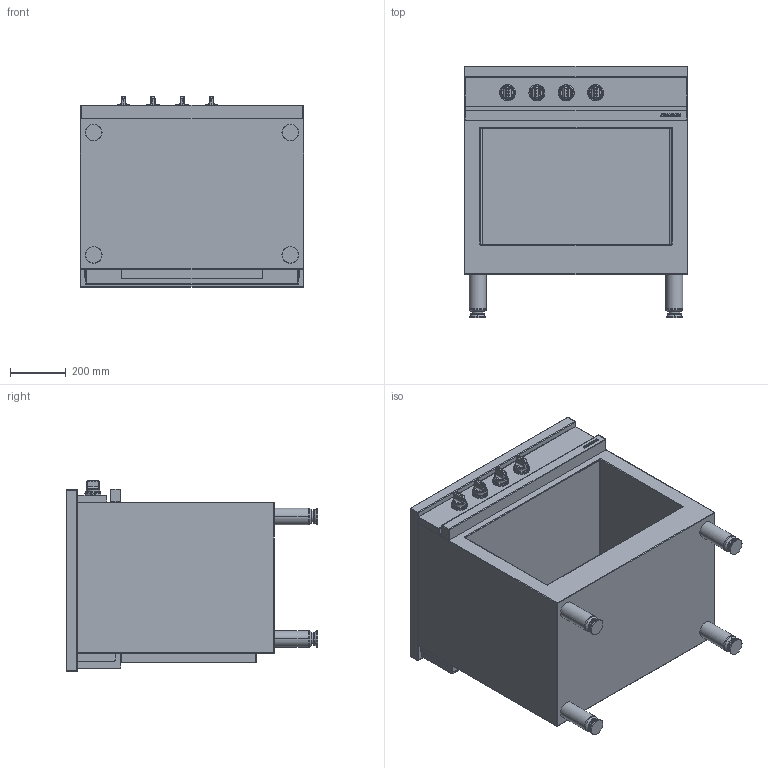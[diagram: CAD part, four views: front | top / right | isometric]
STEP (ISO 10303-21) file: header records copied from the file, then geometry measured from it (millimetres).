
FILE_DESCRIPTION((''),'2;1');
FILE_NAME('CME840VTR_EXPORT_STEP_ASM','2017-11-22T',('r.avril'),(''),'PRO/ENGINEER BY PARAMETRIC TECHNOLOGY CORPORATION, 2014200','PRO/ENGINEER BY PARAMETRIC TECHNOLOGY CORPORATION, 2014200','');
FILE_SCHEMA(('AP203_CONFIGURATION_CONTROLLED_3D_DESIGN_OF_MECHANICAL_PARTS_AND_ASSEMBLIES_MIM_LF { 1 0 10303 403 2 1 2 }'));
Length unit declared in the file: millimetre
Products named in the file (6): MODULES_AMB_800_EXPORT_STEP; TABLE_800_VTR; 6532850; TABLE_800_VTR_ASM; MANETTE_AMB_EXPORT_STEP; CME840VTR_EXPORT_STEP_ASM
Assembly tree (9 placements, depth 3):
  CME840VTR_EXPORT_STEP_ASM
    MODULES_AMB_800_EXPORT_STEP
    TABLE_800_VTR_ASM
      TABLE_800_VTR
      6532850  x2
    MANETTE_AMB_EXPORT_STEP  x4
Bounding box: 800 x 900 x 682.5 mm (x, y, z)
Volume: 109699299.2 mm3; surface area: 6999133 mm2
Topology: 18 solids, 36 shells, 505 faces, 1783 edges, 1620 vertices
Faces by surface type: plane 172, cylinder 141, torus 60, bspline 48, sphere 44, cone 40
Entity records: 19962 total; most frequent: CARTESIAN_POINT 5399, DIRECTION 2270, ORIENTED_EDGE 1908, EDGE_CURVE 1179, VERTEX_POINT 871, AXIS2_PLACEMENT_3D 797, VECTOR 658, LINE 658
